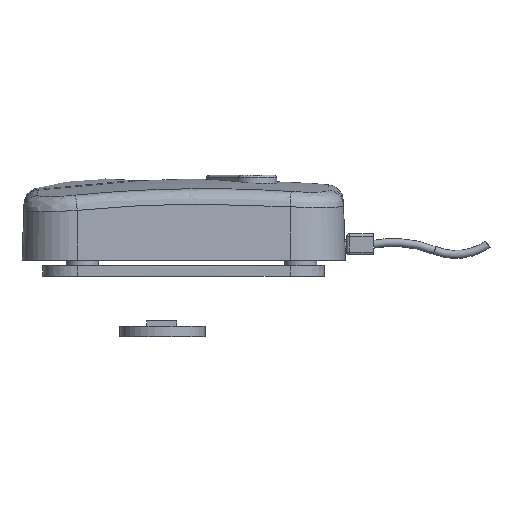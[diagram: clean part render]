
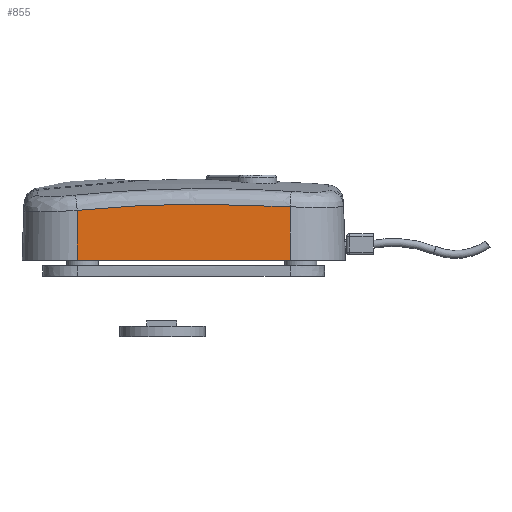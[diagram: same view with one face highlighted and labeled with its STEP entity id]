
A CAD part, left-side view. The second image highlights one B-rep face of the part: STEP entity #855.
In plain terms, the highlighted free-form (B-spline) face has degree [1, 3] with [2, 8] control points.
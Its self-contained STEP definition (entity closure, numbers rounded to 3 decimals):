
#268=B_SPLINE_SURFACE_WITH_KNOTS('',1,3,((#6167,#6168,#6169,#6170,#6171,
#6172,#6173,#6174),(#6175,#6176,#6177,#6178,#6179,#6180,#6181,#6182)),
 .UNSPECIFIED.,.F.,.F.,.F.,(2,2),(4,2,2,4),(0.,1.),(0.,0.01,
0.99,1.),.UNSPECIFIED.);
#362=FACE_OUTER_BOUND('',#1182,.T.);
#578=LINE('',#6159,#707);
#579=LINE('',#6166,#708);
#707=VECTOR('',#3681,1.);
#708=VECTOR('',#3682,1.);
#855=ADVANCED_FACE('',(#362),#268,.T.);
#1182=EDGE_LOOP('',(#1797,#1798,#1799,#1800));
#1468=B_SPLINE_CURVE_WITH_KNOTS('',3,(#5546,#5547,#5548,#5549,#5550,#5551,
#5552),.UNSPECIFIED.,.F.,.F.,(4,3,4),(0.,0.5,1.),
 .UNSPECIFIED.);
#1504=B_SPLINE_CURVE_WITH_KNOTS('',3,(#6161,#6162,#6163,#6164),
 .UNSPECIFIED.,.F.,.F.,(4,4),(0.,1.),.UNSPECIFIED.);
#1797=ORIENTED_EDGE('',*,*,#2962,.T.);
#1798=ORIENTED_EDGE('',*,*,#2963,.T.);
#1799=ORIENTED_EDGE('',*,*,#2964,.T.);
#1800=ORIENTED_EDGE('',*,*,#2912,.T.);
#2616=VERTEX_POINT('',#5545);
#2617=VERTEX_POINT('',#5553);
#2650=VERTEX_POINT('',#6160);
#2651=VERTEX_POINT('',#6165);
#2912=EDGE_CURVE('',#2617,#2616,#1468,.T.);
#2962=EDGE_CURVE('',#2616,#2650,#578,.T.);
#2963=EDGE_CURVE('',#2650,#2651,#1504,.T.);
#2964=EDGE_CURVE('',#2651,#2617,#579,.T.);
#3681=DIRECTION('',(0.035,0.,0.999));
#3682=DIRECTION('',(-0.035,0.,-0.999));
#5545=CARTESIAN_POINT('',(-32.848,-20.001,0.));
#5546=CARTESIAN_POINT('',(-32.824,20.001,0.));
#5547=CARTESIAN_POINT('',(-32.847,13.334,0.));
#5548=CARTESIAN_POINT('',(-32.86,6.667,0.));
#5549=CARTESIAN_POINT('',(-32.864,0.,0.));
#5550=CARTESIAN_POINT('',(-32.868,-6.667,0.));
#5551=CARTESIAN_POINT('',(-32.863,-13.334,0.));
#5552=CARTESIAN_POINT('',(-32.848,-20.001,0.));
#5553=CARTESIAN_POINT('',(-32.824,20.001,0.));
#6159=CARTESIAN_POINT('',(-32.745,-20.,2.934));
#6160=CARTESIAN_POINT('',(-32.496,-20.,10.061));
#6161=CARTESIAN_POINT('',(-32.496,-20.,10.061));
#6162=CARTESIAN_POINT('',(-32.496,-6.678,10.925));
#6163=CARTESIAN_POINT('',(-32.496,6.715,10.698));
#6164=CARTESIAN_POINT('',(-32.496,20.,9.385));
#6165=CARTESIAN_POINT('',(-32.496,20.,9.384));
#6166=CARTESIAN_POINT('',(-32.733,20.001,2.595));
#6167=CARTESIAN_POINT('',(-32.45,20.398,10.668));
#6168=CARTESIAN_POINT('',(-32.45,20.266,10.681));
#6169=CARTESIAN_POINT('',(-32.45,20.133,10.694));
#6170=CARTESIAN_POINT('',(-32.45,6.714,12.021));
#6171=CARTESIAN_POINT('',(-32.45,-6.678,12.248));
#6172=CARTESIAN_POINT('',(-32.45,-20.133,11.376));
#6173=CARTESIAN_POINT('',(-32.45,-20.266,11.367));
#6174=CARTESIAN_POINT('',(-32.45,-20.4,11.358));
#6175=CARTESIAN_POINT('',(-33.111,20.401,-8.249));
#6176=CARTESIAN_POINT('',(-33.111,20.268,-8.236));
#6177=CARTESIAN_POINT('',(-33.111,20.135,-8.223));
#6178=CARTESIAN_POINT('',(-33.111,6.715,-6.896));
#6179=CARTESIAN_POINT('',(-33.111,-6.678,-6.669));
#6180=CARTESIAN_POINT('',(-33.111,-20.135,-7.541));
#6181=CARTESIAN_POINT('',(-33.111,-20.268,-7.55));
#6182=CARTESIAN_POINT('',(-33.111,-20.401,-7.559));
